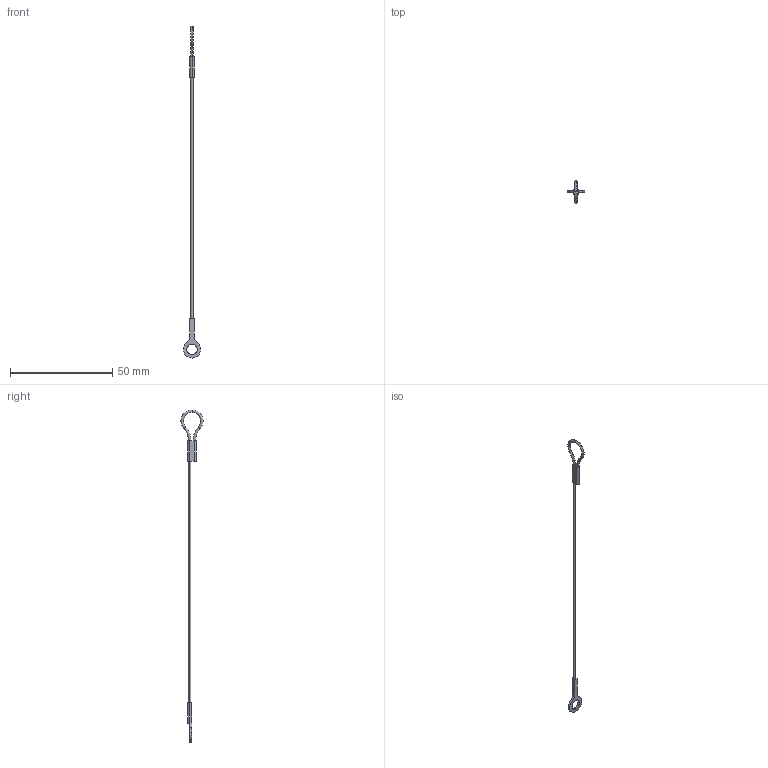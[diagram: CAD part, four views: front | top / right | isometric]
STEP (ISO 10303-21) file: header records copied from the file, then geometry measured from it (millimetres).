
FILE_DESCRIPTION (( 'STEP AP203' ), '1' );
FILE_NAME ('LA1075.I04-152N1.step', '2026-03-23T16:40:37', ( '' ), ( '' ), 'SwSTEP 2.0', 'SolidWorks 2019', '' );
FILE_SCHEMA (( 'CONFIG_CONTROL_DESIGN' ));
Length unit declared in the file: millimetre
Products named in the file (1): LA1075.I04-152N1
Bounding box: 8.36 x 10.76 x 161.99 mm (x, y, z)
Volume: 321.8 mm3; surface area: 887.7 mm2
Topology: 1 solids, 1 shells, 30 faces, 68 edges, 42 vertices
Faces by surface type: plane 12, cylinder 10, torus 8
Entity records: 935 total; most frequent: DIRECTION 168, CARTESIAN_POINT 141, ORIENTED_EDGE 136, AXIS2_PLACEMENT_3D 69, EDGE_CURVE 68, VERTEX_POINT 42, CIRCLE 38, EDGE_LOOP 36
